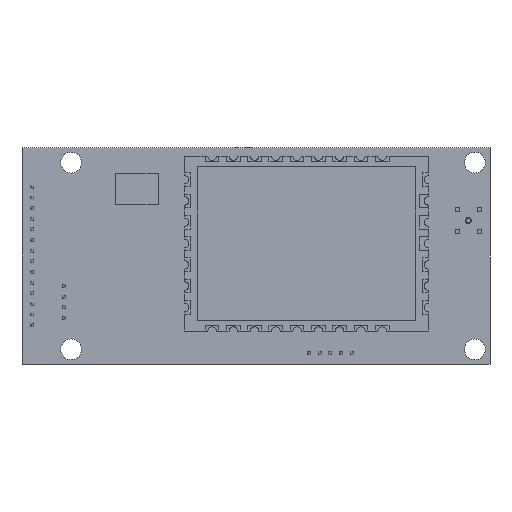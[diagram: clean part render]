
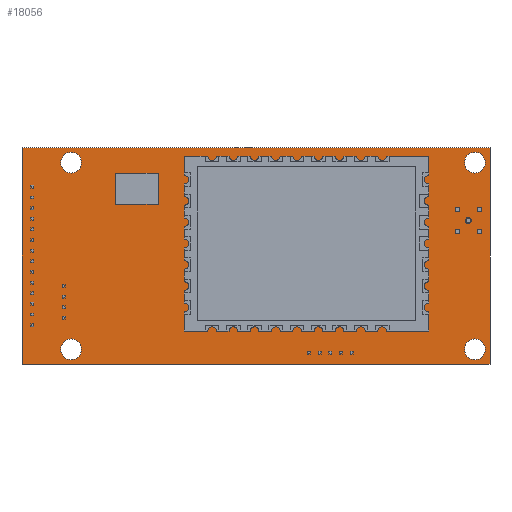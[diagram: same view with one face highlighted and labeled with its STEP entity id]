
A CAD part, front view. The second image highlights one B-rep face of the part: STEP entity #18056.
In plain terms, the highlighted planar face has unit normal (0, -1, 0).
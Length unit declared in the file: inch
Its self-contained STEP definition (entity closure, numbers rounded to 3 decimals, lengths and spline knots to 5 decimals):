
#38 = DIRECTION ( 'NONE',  ( 0., 0., -1. ) ) ;
#449 = ORIENTED_EDGE ( 'NONE', *, *, #21679, .T. ) ;
#1230 = ORIENTED_EDGE ( 'NONE', *, *, #8718, .T. ) ;
#1436 = VECTOR ( 'NONE', #17898, 39.37008 ) ;
#1727 = CARTESIAN_POINT ( 'NONE',  ( 1.0126, -0.03125, -0.43189 ) ) ;
#1828 = AXIS2_PLACEMENT_3D ( 'NONE', #25564, #4867, #28977 ) ;
#2043 = DIRECTION ( 'NONE',  ( 0., 0., 1. ) ) ;
#2403 = VERTEX_POINT ( 'NONE', #17210 ) ;
#2517 = LINE ( 'NONE', #7419, #1436 ) ;
#2604 = DIRECTION ( 'NONE',  ( 0., 1., 0. ) ) ;
#2932 = VERTEX_POINT ( 'NONE', #23236 ) ;
#3135 = CIRCLE ( 'NONE', #1828, 0.048 ) ;
#3201 = ORIENTED_EDGE ( 'NONE', *, *, #18086, .T. ) ;
#3252 = VECTOR ( 'NONE', #2043, 39.37008 ) ;
#4376 = DIRECTION ( 'NONE',  ( 1., 0., 0. ) ) ;
#4568 = VERTEX_POINT ( 'NONE', #21836 ) ;
#4867 = DIRECTION ( 'NONE',  ( 0., 1., 0. ) ) ;
#4912 = VERTEX_POINT ( 'NONE', #24049 ) ;
#5282 = DIRECTION ( 'NONE',  ( 0., 0., -1. ) ) ;
#5439 = VECTOR ( 'NONE', #37784, 39.37008 ) ;
#5854 = CARTESIAN_POINT ( 'NONE',  ( 0., -0.03125, 0.24016 ) ) ;
#5908 = EDGE_CURVE ( 'NONE', #38710, #24103, #7716, .T. ) ;
#6413 = AXIS2_PLACEMENT_3D ( 'NONE', #41259, #20874, #38 ) ;
#6419 = CARTESIAN_POINT ( 'NONE',  ( -0.45276, -0.03125, 0.24016 ) ) ;
#6492 = CARTESIAN_POINT ( 'NONE',  ( 1.0126, -0.03125, -0.43189 ) ) ;
#6627 = VECTOR ( 'NONE', #4376, 39.37008 ) ;
#6802 = LINE ( 'NONE', #5854, #23046 ) ;
#7224 = ORIENTED_EDGE ( 'NONE', *, *, #40036, .T. ) ;
#7225 = CARTESIAN_POINT ( 'NONE',  ( -0.85512, -0.03125, -0.43189 ) ) ;
#7419 = CARTESIAN_POINT ( 'NONE',  ( -0.64961, -0.03125, 0. ) ) ;
#7716 = LINE ( 'NONE', #28513, #6627 ) ;
#8181 = EDGE_CURVE ( 'NONE', #10100, #42713, #42252, .T. ) ;
#8354 = EDGE_LOOP ( 'NONE', ( #37940, #41628 ) ) ;
#8604 = CARTESIAN_POINT ( 'NONE',  ( -0.85512, -0.03125, 0.47989 ) ) ;
#8718 = EDGE_CURVE ( 'NONE', #24537, #4912, #11106, .T. ) ;
#9985 = DIRECTION ( 'NONE',  ( 0., 0., -1. ) ) ;
#10100 = VERTEX_POINT ( 'NONE', #8604 ) ;
#10447 = CARTESIAN_POINT ( 'NONE',  ( -1.08268, -0.03125, 0.50197 ) ) ;
#10488 = CARTESIAN_POINT ( 'NONE',  ( 0., -0.03125, 0.38386 ) ) ;
#10649 = CARTESIAN_POINT ( 'NONE',  ( -0.85512, -0.03125, 0.43189 ) ) ;
#10717 = DIRECTION ( 'NONE',  ( 0., 0., -1. ) ) ;
#11051 = VERTEX_POINT ( 'NONE', #34922 ) ;
#11106 = LINE ( 'NONE', #10447, #43239 ) ;
#11119 = EDGE_LOOP ( 'NONE', ( #449, #17381 ) ) ;
#11187 = EDGE_LOOP ( 'NONE', ( #12206, #3201 ) ) ;
#11961 = FACE_BOUND ( 'NONE', #8354, .T. ) ;
#12206 = ORIENTED_EDGE ( 'NONE', *, *, #15428, .T. ) ;
#12417 = EDGE_CURVE ( 'NONE', #42713, #10100, #16891, .T. ) ;
#12786 = VERTEX_POINT ( 'NONE', #30132 ) ;
#13059 = FACE_BOUND ( 'NONE', #30901, .T. ) ;
#13276 = CARTESIAN_POINT ( 'NONE',  ( -1.08268, -0.03125, -0.50197 ) ) ;
#13647 = EDGE_LOOP ( 'NONE', ( #26916, #32552, #23786, #20787 ) ) ;
#14164 = DIRECTION ( 'NONE',  ( 0., 0., -1. ) ) ;
#14791 = CARTESIAN_POINT ( 'NONE',  ( 1.08268, -0.03125, 0.50197 ) ) ;
#14843 = AXIS2_PLACEMENT_3D ( 'NONE', #40028, #19632, #43495 ) ;
#14851 = AXIS2_PLACEMENT_3D ( 'NONE', #33096, #36503, #16049 ) ;
#15208 = VECTOR ( 'NONE', #41156, 39.37008 ) ;
#15252 = ORIENTED_EDGE ( 'NONE', *, *, #26599, .T. ) ;
#15253 = FACE_BOUND ( 'NONE', #11119, .T. ) ;
#15428 = EDGE_CURVE ( 'NONE', #2932, #43608, #33112, .T. ) ;
#15905 = CARTESIAN_POINT ( 'NONE',  ( 1.08268, -0.03125, -0.50197 ) ) ;
#16049 = DIRECTION ( 'NONE',  ( 0., 0., -1. ) ) ;
#16059 = EDGE_LOOP ( 'NONE', ( #15252, #40641, #27327, #1230 ) ) ;
#16339 = DIRECTION ( 'NONE',  ( -1., 0., 0. ) ) ;
#16599 = CARTESIAN_POINT ( 'NONE',  ( -0.85512, -0.03125, -0.38389 ) ) ;
#16891 = CIRCLE ( 'NONE', #28882, 0.048 ) ;
#17210 = CARTESIAN_POINT ( 'NONE',  ( 1.0126, -0.03125, -0.47989 ) ) ;
#17381 = ORIENTED_EDGE ( 'NONE', *, *, #23350, .T. ) ;
#17898 = DIRECTION ( 'NONE',  ( 0., 0., 1. ) ) ;
#18056 = ADVANCED_FACE ( 'NONE', ( #30229, #31298, #13059, #15253, #21158, #11961 ), #26251, .T. ) ;
#18086 = EDGE_CURVE ( 'NONE', #43608, #2932, #38168, .T. ) ;
#18090 = VERTEX_POINT ( 'NONE', #23132 ) ;
#18255 = VERTEX_POINT ( 'NONE', #34261 ) ;
#19632 = DIRECTION ( 'NONE',  ( 0., 1., 0. ) ) ;
#20420 = EDGE_CURVE ( 'NONE', #42758, #12786, #6802, .T. ) ;
#20764 = CARTESIAN_POINT ( 'NONE',  ( -0.45276, -0.03125, 0. ) ) ;
#20787 = ORIENTED_EDGE ( 'NONE', *, *, #20420, .T. ) ;
#20874 = DIRECTION ( 'NONE',  ( 0., 1., 0. ) ) ;
#21158 = FACE_BOUND ( 'NONE', #11187, .T. ) ;
#21610 = AXIS2_PLACEMENT_3D ( 'NONE', #7225, #31290, #10717 ) ;
#21679 = EDGE_CURVE ( 'NONE', #18255, #31414, #22383, .T. ) ;
#21836 = CARTESIAN_POINT ( 'NONE',  ( 1.0126, -0.03125, -0.38389 ) ) ;
#22383 = CIRCLE ( 'NONE', #6413, 0.048 ) ;
#22440 = CARTESIAN_POINT ( 'NONE',  ( 1.0126, -0.03125, 0.47989 ) ) ;
#23046 = VECTOR ( 'NONE', #16339, 39.37008 ) ;
#23132 = CARTESIAN_POINT ( 'NONE',  ( -0.64961, -0.03125, 0.38386 ) ) ;
#23236 = CARTESIAN_POINT ( 'NONE',  ( -0.85512, -0.03125, -0.47989 ) ) ;
#23350 = EDGE_CURVE ( 'NONE', #31414, #18255, #3135, .T. ) ;
#23362 = CARTESIAN_POINT ( 'NONE',  ( -0.85512, -0.03125, 0.38389 ) ) ;
#23401 = CARTESIAN_POINT ( 'NONE',  ( -0.85512, -0.03125, 0.43189 ) ) ;
#23786 = ORIENTED_EDGE ( 'NONE', *, *, #34097, .T. ) ;
#23800 = EDGE_CURVE ( 'NONE', #12786, #18090, #2517, .T. ) ;
#23838 = LINE ( 'NONE', #34428, #5439 ) ;
#23874 = CIRCLE ( 'NONE', #35539, 0.048 ) ;
#24049 = CARTESIAN_POINT ( 'NONE',  ( -1.08268, -0.03125, 0.50197 ) ) ;
#24103 = VERTEX_POINT ( 'NONE', #15905 ) ;
#24537 = VERTEX_POINT ( 'NONE', #14791 ) ;
#24957 = EDGE_CURVE ( 'NONE', #18090, #11051, #36301, .T. ) ;
#25564 = CARTESIAN_POINT ( 'NONE',  ( 1.0126, -0.03125, 0.43189 ) ) ;
#25971 = DIRECTION ( 'NONE',  ( 0., 1., 0. ) ) ;
#26251 = PLANE ( 'NONE',  #14851 ) ;
#26278 = EDGE_CURVE ( 'NONE', #4568, #2403, #23874, .T. ) ;
#26354 = EDGE_CURVE ( 'NONE', #24103, #24537, #39800, .T. ) ;
#26599 = EDGE_CURVE ( 'NONE', #4912, #38710, #23838, .T. ) ;
#26825 = DIRECTION ( 'NONE',  ( 0., 0., -1. ) ) ;
#26916 = ORIENTED_EDGE ( 'NONE', *, *, #23800, .T. ) ;
#27327 = ORIENTED_EDGE ( 'NONE', *, *, #26354, .T. ) ;
#27603 = DIRECTION ( 'NONE',  ( -1., 0., 0. ) ) ;
#28195 = AXIS2_PLACEMENT_3D ( 'NONE', #6492, #30561, #9985 ) ;
#28513 = CARTESIAN_POINT ( 'NONE',  ( -1.08268, -0.03125, -0.50197 ) ) ;
#28882 = AXIS2_PLACEMENT_3D ( 'NONE', #23401, #2604, #26825 ) ;
#28977 = DIRECTION ( 'NONE',  ( 0., 0., -1. ) ) ;
#29230 = CIRCLE ( 'NONE', #28195, 0.048 ) ;
#29756 = ORIENTED_EDGE ( 'NONE', *, *, #26278, .T. ) ;
#30132 = CARTESIAN_POINT ( 'NONE',  ( -0.64961, -0.03125, 0.24016 ) ) ;
#30229 = FACE_OUTER_BOUND ( 'NONE', #16059, .T. ) ;
#30561 = DIRECTION ( 'NONE',  ( 0., 1., 0. ) ) ;
#30901 = EDGE_LOOP ( 'NONE', ( #7224, #29756 ) ) ;
#31071 = DIRECTION ( 'NONE',  ( 1., 0., 0. ) ) ;
#31290 = DIRECTION ( 'NONE',  ( 0., 1., 0. ) ) ;
#31298 = FACE_BOUND ( 'NONE', #13647, .T. ) ;
#31414 = VERTEX_POINT ( 'NONE', #22440 ) ;
#32552 = ORIENTED_EDGE ( 'NONE', *, *, #24957, .T. ) ;
#33096 = CARTESIAN_POINT ( 'NONE',  ( 0., -0.03125, 0. ) ) ;
#33112 = CIRCLE ( 'NONE', #21610, 0.048 ) ;
#34097 = EDGE_CURVE ( 'NONE', #11051, #42758, #34469, .T. ) ;
#34261 = CARTESIAN_POINT ( 'NONE',  ( 1.0126, -0.03125, 0.38389 ) ) ;
#34428 = CARTESIAN_POINT ( 'NONE',  ( -1.08268, -0.03125, 0.50197 ) ) ;
#34469 = LINE ( 'NONE', #20764, #15208 ) ;
#34664 = DIRECTION ( 'NONE',  ( 0., 1., 0. ) ) ;
#34922 = CARTESIAN_POINT ( 'NONE',  ( -0.45276, -0.03125, 0.38386 ) ) ;
#35539 = AXIS2_PLACEMENT_3D ( 'NONE', #1727, #25971, #5282 ) ;
#36301 = LINE ( 'NONE', #10488, #44284 ) ;
#36503 = DIRECTION ( 'NONE',  ( 0., -1., 0. ) ) ;
#37597 = AXIS2_PLACEMENT_3D ( 'NONE', #10649, #34664, #14164 ) ;
#37784 = DIRECTION ( 'NONE',  ( 0., 0., -1. ) ) ;
#37940 = ORIENTED_EDGE ( 'NONE', *, *, #12417, .T. ) ;
#38168 = CIRCLE ( 'NONE', #14843, 0.048 ) ;
#38710 = VERTEX_POINT ( 'NONE', #13276 ) ;
#39800 = LINE ( 'NONE', #43202, #3252 ) ;
#40028 = CARTESIAN_POINT ( 'NONE',  ( -0.85512, -0.03125, -0.43189 ) ) ;
#40036 = EDGE_CURVE ( 'NONE', #2403, #4568, #29230, .T. ) ;
#40641 = ORIENTED_EDGE ( 'NONE', *, *, #5908, .T. ) ;
#41156 = DIRECTION ( 'NONE',  ( 0., 0., -1. ) ) ;
#41259 = CARTESIAN_POINT ( 'NONE',  ( 1.0126, -0.03125, 0.43189 ) ) ;
#41628 = ORIENTED_EDGE ( 'NONE', *, *, #8181, .T. ) ;
#42252 = CIRCLE ( 'NONE', #37597, 0.048 ) ;
#42713 = VERTEX_POINT ( 'NONE', #23362 ) ;
#42758 = VERTEX_POINT ( 'NONE', #6419 ) ;
#43202 = CARTESIAN_POINT ( 'NONE',  ( 1.08268, -0.03125, 0.50197 ) ) ;
#43239 = VECTOR ( 'NONE', #27603, 39.37008 ) ;
#43495 = DIRECTION ( 'NONE',  ( 0., 0., -1. ) ) ;
#43608 = VERTEX_POINT ( 'NONE', #16599 ) ;
#44284 = VECTOR ( 'NONE', #31071, 39.37008 ) ;
